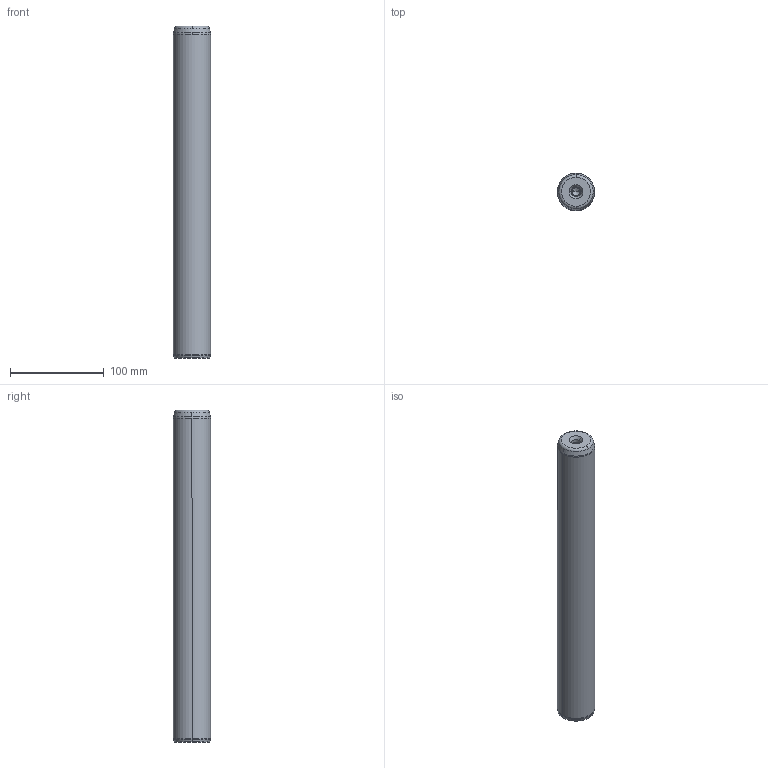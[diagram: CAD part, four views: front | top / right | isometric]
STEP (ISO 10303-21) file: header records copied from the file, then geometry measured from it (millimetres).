
FILE_DESCRIPTION((''),'2;1');
FILE_NAME('P10_040_355.stp','2008-12-23T15:25:29',(''),(''),'Mechanical Desktop 2009','Mechanical Desktop 2009',', , ');
FILE_SCHEMA(('CONFIG_CONTROL_DESIGN'));
Length unit declared in the file: millimetre
Products named in the file (5): Product; ProductAA; blmdl1; ProductA; blmdl1A
Assembly tree (2 placements, depth 3):
  Product
    ProductAA
      blmdl1
  ProductA
  blmdl1A
Bounding box: 40 x 40 x 355 mm (x, y, z)
Volume: 442602.1 mm3; surface area: 47454.4 mm2
Topology: 1 solids, 1 shells, 26 faces, 66 edges, 41 vertices
Faces by surface type: cone 10, torus 8, cylinder 6, plane 2
Entity records: 1012 total; most frequent: DIRECTION 170, CARTESIAN_POINT 134, ORIENTED_EDGE 128, AXIS2_PLACEMENT_3D 77, EDGE_CURVE 64, CIRCLE 48, VERTEX_POINT 41, EDGE_LOOP 27
